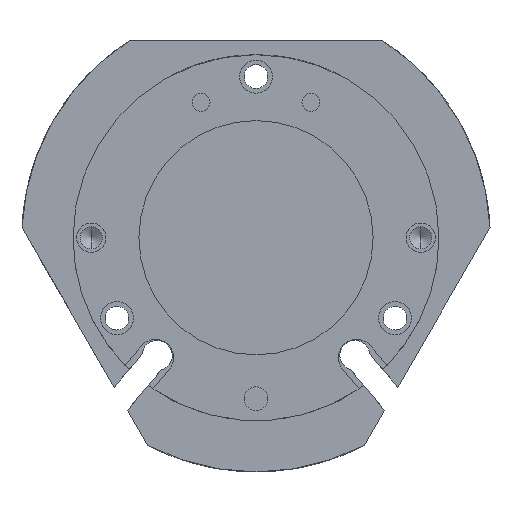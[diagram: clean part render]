
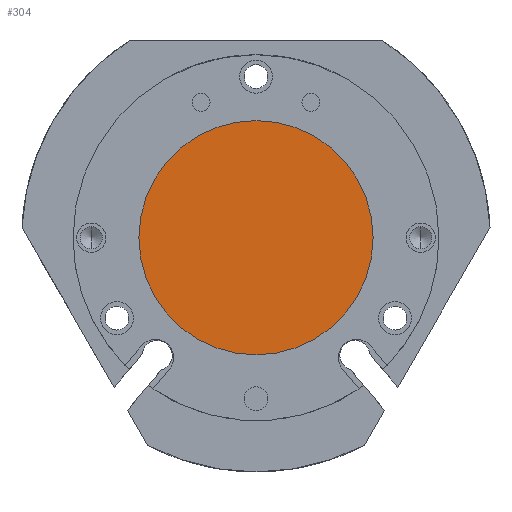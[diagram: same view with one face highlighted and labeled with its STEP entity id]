
A CAD part, front view. The second image highlights one B-rep face of the part: STEP entity #304.
In plain terms, the highlighted planar face has unit normal (0, -1, 0) as drawn and (0, 1, 0) by its records, which use the part's own axes.
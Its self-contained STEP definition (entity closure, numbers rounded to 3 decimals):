
#247 = CIRCLE ( 'NONE', #6517, 16. ) ;
#304 = ADVANCED_FACE ( 'NONE', ( #4248 ), #869, .T. ) ;
#323 = AXIS2_PLACEMENT_3D ( 'NONE', #2469, #7968, #8036 ) ;
#586 = CIRCLE ( 'NONE', #323, 16. ) ;
#734 = DIRECTION ( 'NONE',  ( 0., 1., 0. ) ) ;
#796 = EDGE_LOOP ( 'NONE', ( #3825, #7982 ) ) ;
#869 = PLANE ( 'NONE',  #8163 ) ;
#1367 = CARTESIAN_POINT ( 'NONE',  ( 0., 3.5, 0. ) ) ;
#2469 = CARTESIAN_POINT ( 'NONE',  ( 0., 3.5, 0. ) ) ;
#2921 = EDGE_CURVE ( 'NONE', #7495, #5434, #586, .T. ) ;
#3319 = EDGE_CURVE ( 'NONE', #5434, #7495, #247, .T. ) ;
#3825 = ORIENTED_EDGE ( 'NONE', *, *, #2921, .T. ) ;
#4248 = FACE_OUTER_BOUND ( 'NONE', #796, .T. ) ;
#4984 = CARTESIAN_POINT ( 'NONE',  ( 0., 3.5, 16. ) ) ;
#5434 = VERTEX_POINT ( 'NONE', #4984 ) ;
#6437 = DIRECTION ( 'NONE',  ( 0., 0., 1. ) ) ;
#6517 = AXIS2_PLACEMENT_3D ( 'NONE', #1367, #7011, #7112 ) ;
#7011 = DIRECTION ( 'NONE',  ( 0., 1., 0. ) ) ;
#7112 = DIRECTION ( 'NONE',  ( 1., 0., 0. ) ) ;
#7127 = CARTESIAN_POINT ( 'NONE',  ( 0., 3.5, 0. ) ) ;
#7495 = VERTEX_POINT ( 'NONE', #8374 ) ;
#7968 = DIRECTION ( 'NONE',  ( 0., 1., 0. ) ) ;
#7982 = ORIENTED_EDGE ( 'NONE', *, *, #3319, .T. ) ;
#8036 = DIRECTION ( 'NONE',  ( 1., 0., 0. ) ) ;
#8163 = AXIS2_PLACEMENT_3D ( 'NONE', #7127, #734, #6437 ) ;
#8374 = CARTESIAN_POINT ( 'NONE',  ( 0., 3.5, -16. ) ) ;
